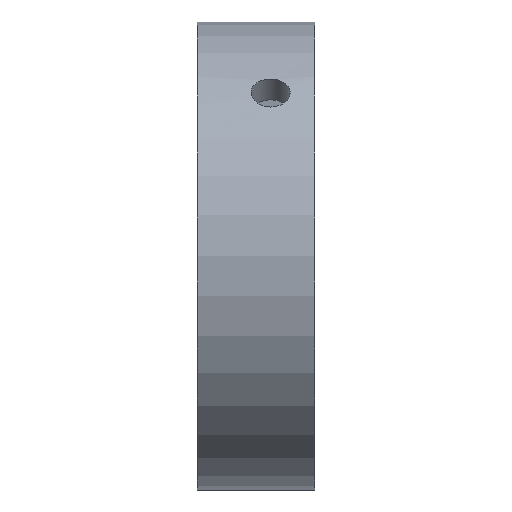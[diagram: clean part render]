
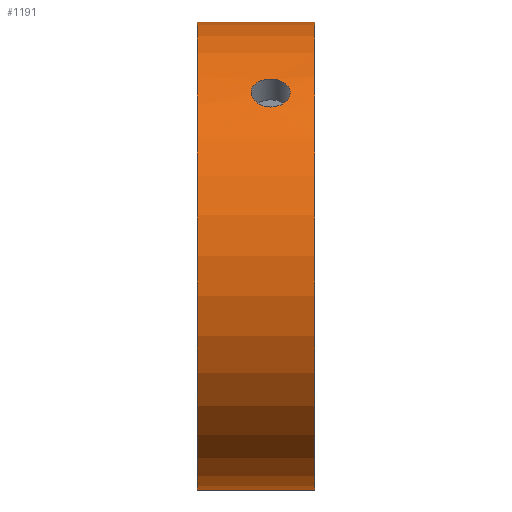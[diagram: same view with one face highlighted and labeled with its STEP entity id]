
A CAD part, top view. The second image highlights one B-rep face of the part: STEP entity #1191.
In plain terms, the highlighted cylindrical face has radius 24 mm (diameter 48 mm), a full revolution.
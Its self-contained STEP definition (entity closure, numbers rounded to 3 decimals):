
#21=B_SPLINE_CURVE_WITH_KNOTS('',3,(#1859,#1860,#1861,#1862,#1863,#1864,
#1865,#1866,#1867,#1868,#1869,#1870,#1871,#1872,#1873,#1874,#1875,#1876,
#1877,#1878,#1879,#1880,#1881,#1882,#1883,#1884,#1885,#1886,#1887,#1888,
#1889,#1890,#1891,#1892),.UNSPECIFIED.,.T.,.F.,(4,2,2,2,2,2,2,2,2,2,2,2,
2,2,2,2,4),(0.,0.075,0.151,0.226,0.302,
0.377,0.452,0.528,0.603,
0.678,0.754,0.829,0.904,
0.98,1.055,1.131,1.206),
 .UNSPECIFIED.);
#33=CYLINDRICAL_SURFACE('',#1300,24.);
#47=FACE_BOUND('',#224,.T.);
#95=CIRCLE('',#1301,24.);
#96=CIRCLE('',#1302,24.);
#152=FACE_OUTER_BOUND('',#223,.T.);
#223=EDGE_LOOP('',(#1034,#1035,#1036,#1037));
#224=EDGE_LOOP('',(#1038));
#360=LINE('',#2090,#483);
#483=VECTOR('',#1618,24.);
#538=VERTEX_POINT('',#1858);
#592=VERTEX_POINT('',#2087);
#593=VERTEX_POINT('',#2089);
#673=EDGE_CURVE('',#538,#538,#21,.T.);
#756=EDGE_CURVE('',#592,#592,#95,.T.);
#757=EDGE_CURVE('',#592,#593,#360,.T.);
#758=EDGE_CURVE('',#593,#593,#96,.T.);
#1034=ORIENTED_EDGE('',*,*,#756,.F.);
#1035=ORIENTED_EDGE('',*,*,#757,.T.);
#1036=ORIENTED_EDGE('',*,*,#758,.F.);
#1037=ORIENTED_EDGE('',*,*,#757,.F.);
#1038=ORIENTED_EDGE('',*,*,#673,.T.);
#1191=ADVANCED_FACE('',(#152,#47),#33,.T.);
#1300=AXIS2_PLACEMENT_3D('',#2086,#1614,#1615);
#1301=AXIS2_PLACEMENT_3D('',#2088,#1616,#1617);
#1302=AXIS2_PLACEMENT_3D('',#2091,#1619,#1620);
#1614=DIRECTION('center_axis',(-1.,0.,0.));
#1615=DIRECTION('ref_axis',(0.,1.,0.));
#1616=DIRECTION('center_axis',(-1.,0.,0.));
#1617=DIRECTION('ref_axis',(0.,1.,0.));
#1618=DIRECTION('',(1.,0.,0.));
#1619=DIRECTION('center_axis',(1.,0.,0.));
#1620=DIRECTION('ref_axis',(0.,1.,0.));
#1858=CARTESIAN_POINT('',(-1.395,68.171,93.35));
#1859=CARTESIAN_POINT('Ctrl Pts',(-1.395,68.171,93.35));
#1860=CARTESIAN_POINT('Ctrl Pts',(-1.646,68.171,93.35));
#1861=CARTESIAN_POINT('Ctrl Pts',(-1.914,68.21,93.318));
#1862=CARTESIAN_POINT('Ctrl Pts',(-2.406,68.368,93.187));
#1863=CARTESIAN_POINT('Ctrl Pts',(-2.631,68.486,93.087));
#1864=CARTESIAN_POINT('Ctrl Pts',(-2.986,68.755,92.855));
#1865=CARTESIAN_POINT('Ctrl Pts',(-3.14,68.924,92.706));
#1866=CARTESIAN_POINT('Ctrl Pts',(-3.344,69.288,92.373));
#1867=CARTESIAN_POINT('Ctrl Pts',(-3.395,69.483,92.189));
#1868=CARTESIAN_POINT('Ctrl Pts',(-3.395,69.843,91.839));
#1869=CARTESIAN_POINT('Ctrl Pts',(-3.344,70.032,91.649));
#1870=CARTESIAN_POINT('Ctrl Pts',(-3.14,70.374,91.294));
#1871=CARTESIAN_POINT('Ctrl Pts',(-2.986,70.527,91.129));
#1872=CARTESIAN_POINT('Ctrl Pts',(-2.631,70.767,90.867));
#1873=CARTESIAN_POINT('Ctrl Pts',(-2.406,70.87,90.751));
#1874=CARTESIAN_POINT('Ctrl Pts',(-1.914,71.005,90.598));
#1875=CARTESIAN_POINT('Ctrl Pts',(-1.646,71.038,90.56));
#1876=CARTESIAN_POINT('Ctrl Pts',(-1.143,71.038,90.56));
#1877=CARTESIAN_POINT('Ctrl Pts',(-0.875,71.005,90.598));
#1878=CARTESIAN_POINT('Ctrl Pts',(-0.383,70.87,90.751));
#1879=CARTESIAN_POINT('Ctrl Pts',(-0.158,70.767,90.867));
#1880=CARTESIAN_POINT('Ctrl Pts',(0.197,70.527,91.129));
#1881=CARTESIAN_POINT('Ctrl Pts',(0.351,70.374,91.294));
#1882=CARTESIAN_POINT('Ctrl Pts',(0.555,70.032,91.649));
#1883=CARTESIAN_POINT('Ctrl Pts',(0.605,69.843,91.839));
#1884=CARTESIAN_POINT('Ctrl Pts',(0.605,69.483,92.189));
#1885=CARTESIAN_POINT('Ctrl Pts',(0.555,69.288,92.373));
#1886=CARTESIAN_POINT('Ctrl Pts',(0.351,68.924,92.706));
#1887=CARTESIAN_POINT('Ctrl Pts',(0.197,68.755,92.855));
#1888=CARTESIAN_POINT('Ctrl Pts',(-0.158,68.486,93.087));
#1889=CARTESIAN_POINT('Ctrl Pts',(-0.383,68.368,93.187));
#1890=CARTESIAN_POINT('Ctrl Pts',(-0.875,68.21,93.318));
#1891=CARTESIAN_POINT('Ctrl Pts',(-1.143,68.171,93.35));
#1892=CARTESIAN_POINT('Ctrl Pts',(-1.395,68.171,93.35));
#2086=CARTESIAN_POINT('Origin',(3.105,52.922,74.817));
#2087=CARTESIAN_POINT('',(-8.895,28.922,74.817));
#2088=CARTESIAN_POINT('Origin',(-8.895,52.922,74.817));
#2089=CARTESIAN_POINT('',(3.105,28.922,74.817));
#2090=CARTESIAN_POINT('',(3.105,28.922,74.817));
#2091=CARTESIAN_POINT('Origin',(3.105,52.922,74.817));
